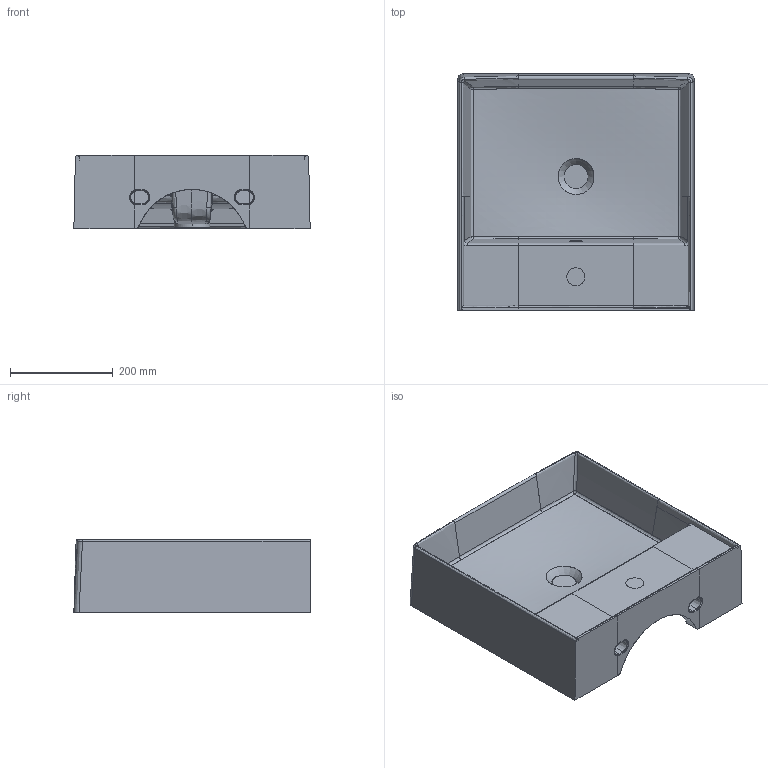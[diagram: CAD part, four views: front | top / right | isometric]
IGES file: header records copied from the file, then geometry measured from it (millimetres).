
Global section: file name: C:\Users\Massimiliano\Desktop\Teorema2.0\TEOREMA 2.0 lavabo 46x46 art.5104\TEOREMA 2.0 46R art. 5104-46x46.igs; native system: Rhinoceros ( Mar 28 2013 ); preprocessor: Trout Lake IGES 012 Mar 28 2013; date: 171129.103611; units: millimetre
Bounding box: 460 x 460 x 142.66 mm (x, y, z)
Surface area: 900511.7 mm2 (no closed solid volume)
Topology: 0 solids, 0 shells, 240 faces, 4447 edges, 4432 vertices
Faces by surface type: bspline 240
